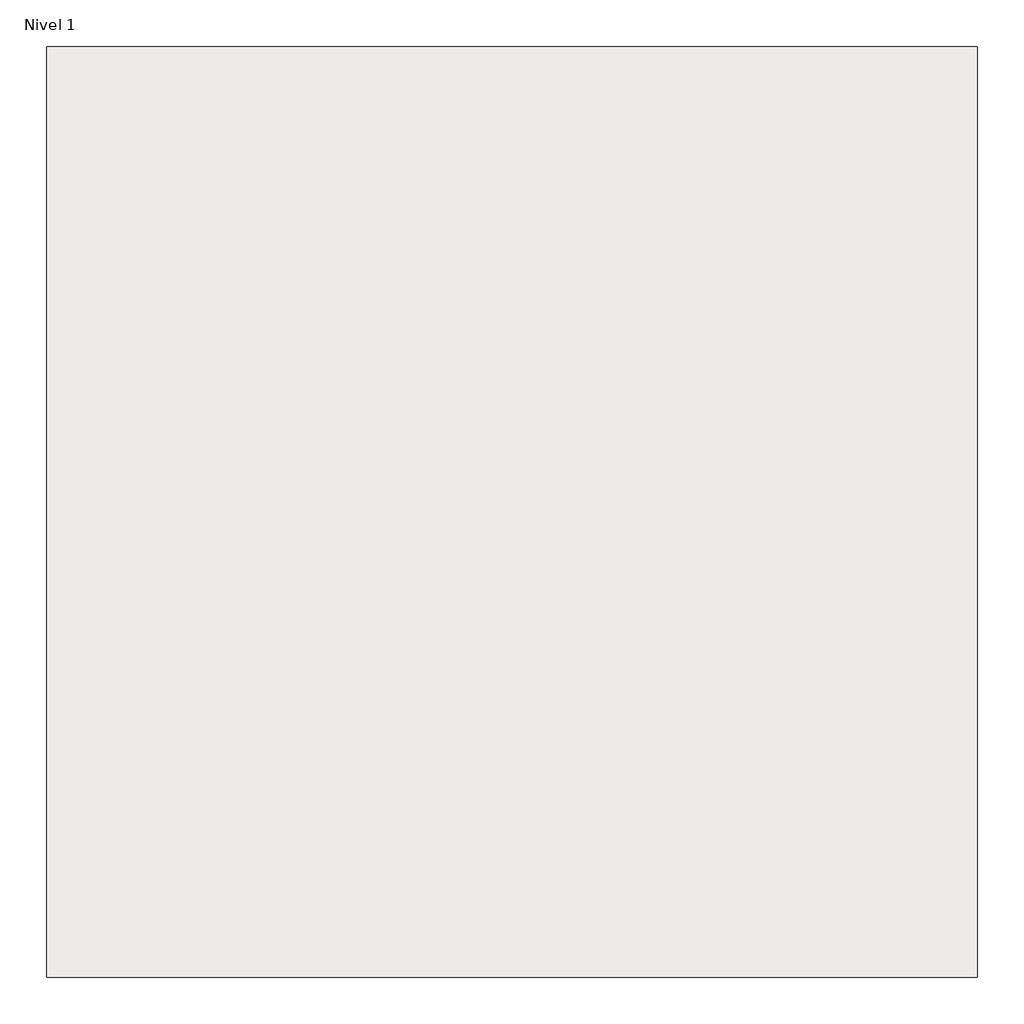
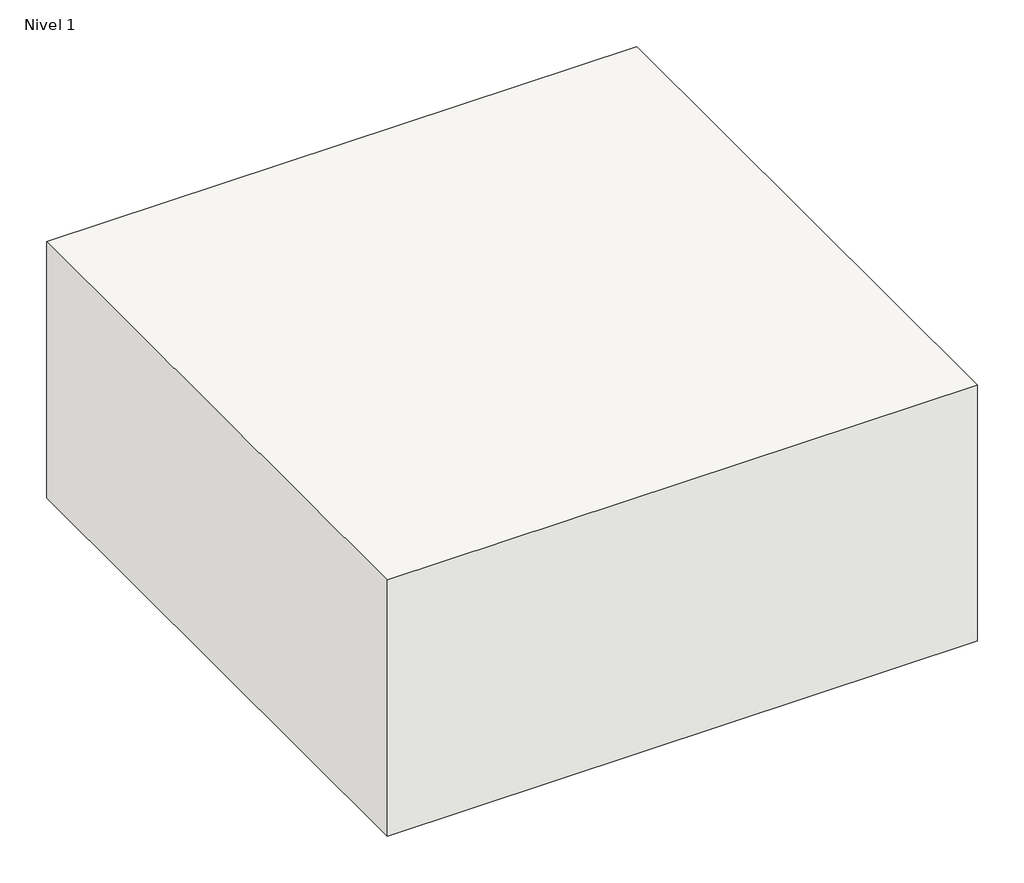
# One storey: 1 slab.
"""IFC4 building model written with IfcOpenShell, lengths in millimetres."""

from ifc_helpers import new_model, si_unit, frame, origin, place, context, project, spatial, polyline, outline, extrude, element, save

model = new_model("IFC4")

# Units and contexts
model_context = context("Model", 3, world=origin())
ifc_project = project(units=[si_unit("LENGTHUNIT", "METRE", prefix="MILLI")], contexts=[model_context])

# Site, building, storey
site = spatial("IfcSite", under=ifc_project)
building = spatial("IfcBuilding", under=site)
storey = spatial("IfcBuildingStorey", under=building, Name="Nivel 1", Elevation=0.0)

# Slab
placement = place(None, origin())
element("IfcSlab", 1, ObjectType="Suelo flotante impacto y vibraciones - Sistema S05", at=placement, inside=storey, context=model_context, shape_type="SweptSolid", body=[
    extrude(outline(polyline([(-3481.3346139, -2999.8684589), (-4481.3346139, -2999.8684589), (-4481.3346139, -1999.8684589), (-3481.3346139, -1999.8684589), (-3481.3346139, -2999.8684589)])), frame((0.0, 0.0, -459.0), z_axis=(0.0, 0.0, 1.0), x_axis=(1.0, 0.0, 0.0)), (0.0, 0.0, 1.0), 459.0),
])

save(model, "model.ifc")
